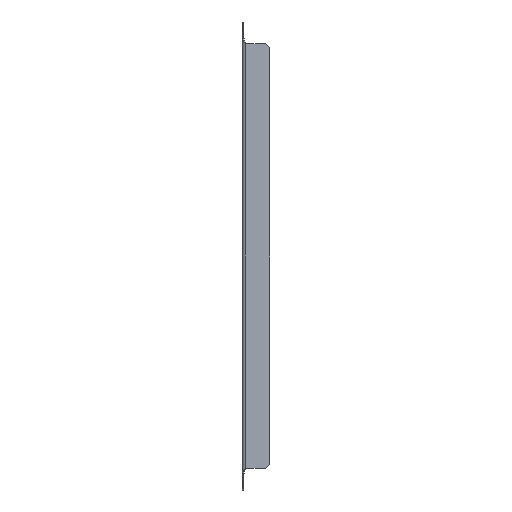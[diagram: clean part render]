
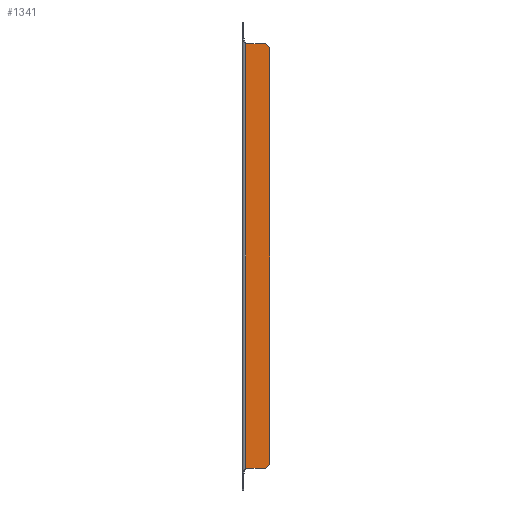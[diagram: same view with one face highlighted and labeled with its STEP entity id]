
A CAD part, left-side view. The second image highlights one B-rep face of the part: STEP entity #1341.
In plain terms, the highlighted planar face has unit normal (-1, 0, 0).
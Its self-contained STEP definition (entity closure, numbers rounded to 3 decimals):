
#31 = CARTESIAN_POINT ( 'NONE',  ( -79.5, 0., -145.45 ) ) ;
#98 = CARTESIAN_POINT ( 'NONE',  ( -79.5, -19., 142.45 ) ) ;
#114 = VERTEX_POINT ( 'NONE', #626 ) ;
#134 = ORIENTED_EDGE ( 'NONE', *, *, #1131, .T. ) ;
#166 = EDGE_CURVE ( 'NONE', #1368, #530, #1520, .T. ) ;
#211 = CARTESIAN_POINT ( 'NONE',  ( -79.5, -80.725, 80.725 ) ) ;
#245 = ORIENTED_EDGE ( 'NONE', *, *, #297, .T. ) ;
#287 = ORIENTED_EDGE ( 'NONE', *, *, #1483, .T. ) ;
#297 = EDGE_CURVE ( 'NONE', #329, #786, #340, .T. ) ;
#326 = CARTESIAN_POINT ( 'NONE',  ( -79.5, 0., 145.45 ) ) ;
#329 = VERTEX_POINT ( 'NONE', #98 ) ;
#340 = LINE ( 'NONE', #211, #693 ) ;
#359 = VECTOR ( 'NONE', #682, 1000. ) ;
#394 = CARTESIAN_POINT ( 'NONE',  ( -79.5, -2.4, 0. ) ) ;
#436 = LINE ( 'NONE', #326, #931 ) ;
#453 = DIRECTION ( 'NONE',  ( 0., -1., 0. ) ) ;
#471 = ORIENTED_EDGE ( 'NONE', *, *, #677, .T. ) ;
#530 = VERTEX_POINT ( 'NONE', #830 ) ;
#533 = VECTOR ( 'NONE', #739, 1000. ) ;
#552 = LINE ( 'NONE', #31, #1487 ) ;
#601 = CARTESIAN_POINT ( 'NONE',  ( -79.5, -19., 0. ) ) ;
#621 = AXIS2_PLACEMENT_3D ( 'NONE', #1204, #1331, #453 ) ;
#626 = CARTESIAN_POINT ( 'NONE',  ( -79.5, -16., -145.45 ) ) ;
#677 = EDGE_CURVE ( 'NONE', #1088, #329, #1436, .T. ) ;
#682 = DIRECTION ( 'NONE',  ( 0., -0.707, 0.707 ) ) ;
#693 = VECTOR ( 'NONE', #945, 1000. ) ;
#724 = DIRECTION ( 'NONE',  ( 0., -1., 0. ) ) ;
#739 = DIRECTION ( 'NONE',  ( 0., 0., 1. ) ) ;
#786 = VERTEX_POINT ( 'NONE', #1120 ) ;
#805 = CARTESIAN_POINT ( 'NONE',  ( -79.5, -80.725, -80.725 ) ) ;
#830 = CARTESIAN_POINT ( 'NONE',  ( -79.5, -2.4, -145.45 ) ) ;
#853 = CARTESIAN_POINT ( 'NONE',  ( -79.5, -2.4, 145.45 ) ) ;
#881 = DIRECTION ( 'NONE',  ( 0., 0., -1. ) ) ;
#890 = ORIENTED_EDGE ( 'NONE', *, *, #166, .T. ) ;
#931 = VECTOR ( 'NONE', #1306, 1000. ) ;
#941 = PLANE ( 'NONE',  #621 ) ;
#945 = DIRECTION ( 'NONE',  ( 0., 0.707, 0.707 ) ) ;
#973 = LINE ( 'NONE', #805, #359 ) ;
#1088 = VERTEX_POINT ( 'NONE', #1261 ) ;
#1120 = CARTESIAN_POINT ( 'NONE',  ( -79.5, -16., 145.45 ) ) ;
#1131 = EDGE_CURVE ( 'NONE', #114, #1088, #973, .T. ) ;
#1194 = VECTOR ( 'NONE', #881, 1000. ) ;
#1204 = CARTESIAN_POINT ( 'NONE',  ( -79.5, 0., 0. ) ) ;
#1206 = EDGE_CURVE ( 'NONE', #786, #1368, #436, .T. ) ;
#1219 = FACE_OUTER_BOUND ( 'NONE', #1551, .T. ) ;
#1255 = ORIENTED_EDGE ( 'NONE', *, *, #1206, .T. ) ;
#1261 = CARTESIAN_POINT ( 'NONE',  ( -79.5, -19., -142.45 ) ) ;
#1306 = DIRECTION ( 'NONE',  ( 0., 1., 0. ) ) ;
#1331 = DIRECTION ( 'NONE',  ( -1., 0., 0. ) ) ;
#1341 = ADVANCED_FACE ( 'NONE', ( #1219 ), #941, .T. ) ;
#1368 = VERTEX_POINT ( 'NONE', #853 ) ;
#1436 = LINE ( 'NONE', #601, #533 ) ;
#1483 = EDGE_CURVE ( 'NONE', #530, #114, #552, .T. ) ;
#1487 = VECTOR ( 'NONE', #724, 1000. ) ;
#1520 = LINE ( 'NONE', #394, #1194 ) ;
#1551 = EDGE_LOOP ( 'NONE', ( #287, #134, #471, #245, #1255, #890 ) ) ;
